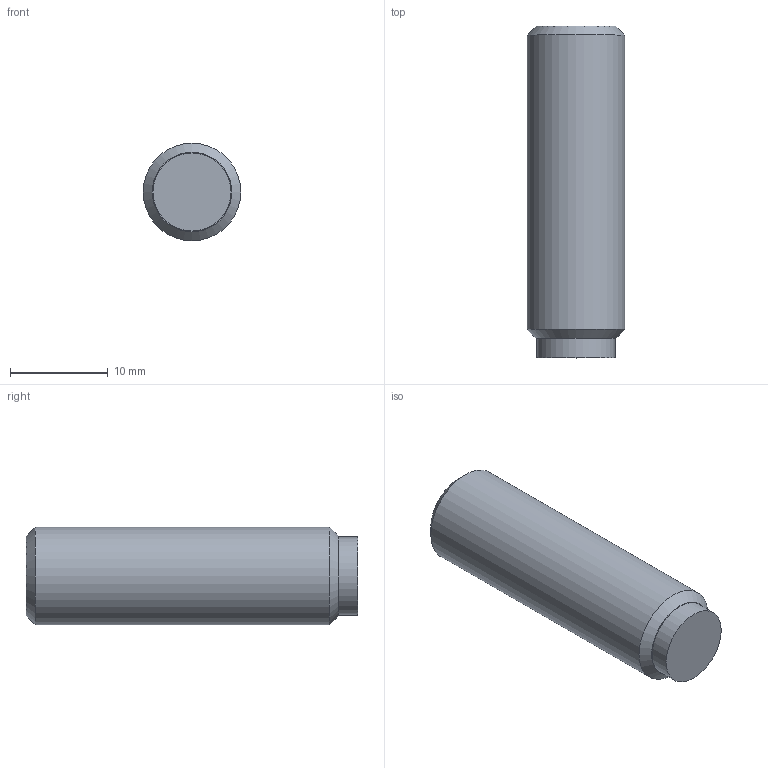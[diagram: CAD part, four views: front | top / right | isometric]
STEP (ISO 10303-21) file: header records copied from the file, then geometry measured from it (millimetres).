
FILE_DESCRIPTION( ( 'STEP AP203' ), '1' );
FILE_NAME( 'C:/Temp/Ganter_Step_05_03_2020/data/3_2/gn913_3/Grub screw GN 913.3-M10-32-MS.stp', '2020-03-13T05:35:52', ( 'License CC BY-ND 4.0' ), ( 'CADENAS' ), ' ', 'PARTsolutions', ' ' );
FILE_SCHEMA( ( 'CONFIG_CONTROL_DESIGN' ) );
Length unit declared in the file: millimetre
Products named in the file (1): _Grub screw GN 913.3-M10-32-MS
Bounding box: 10 x 34 x 10 mm (x, y, z)
Volume: 2458.9 mm3; surface area: 1280.5 mm2
Topology: 1 solids, 1 shells, 14 faces, 28 edges, 18 vertices
Faces by surface type: plane 10, cylinder 2, cone 2
Full cylindrical faces by diameter (mm): 8 x1, 10 x1
Entity records: 386 total; most frequent: DIRECTION 60, CARTESIAN_POINT 57, ORIENTED_EDGE 48, EDGE_CURVE 24, AXIS2_PLACEMENT_3D 21, EDGE_LOOP 20, VERTEX_POINT 18, LINE 18
